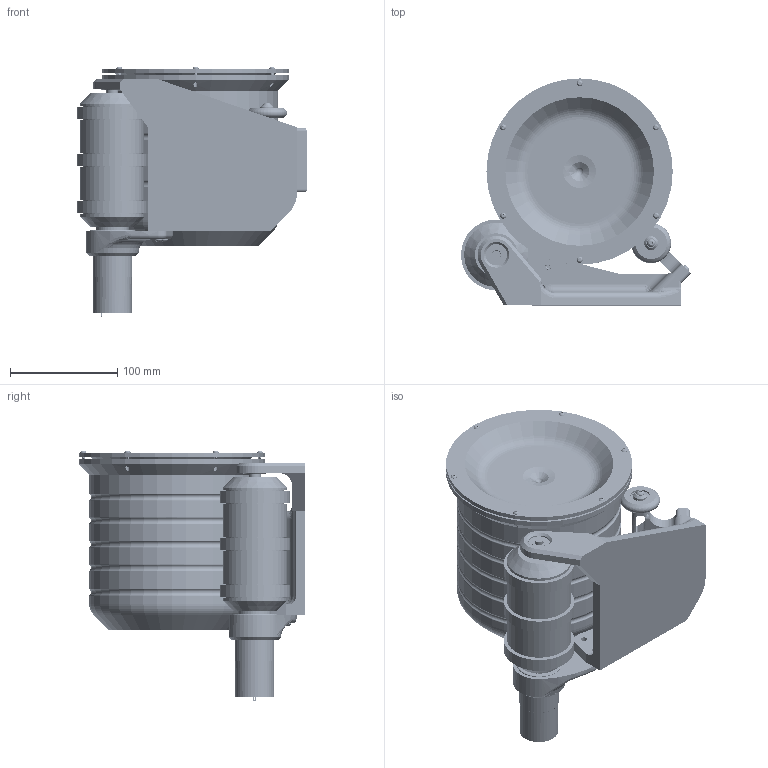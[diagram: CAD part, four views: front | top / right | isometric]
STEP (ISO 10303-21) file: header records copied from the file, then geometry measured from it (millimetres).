
FILE_DESCRIPTION(/* description */ (''),/* implementation_level */ '2;1');
FILE_NAME(/* name */ 'SimpleTumblePolisher_v1.step',/* time_stamp */ '2026-03-08T20:52:50-06:00',/* author */ (''),/* organization */ (''),/* preprocessor_version */ 'ST-DEVELOPER v20.1',/* originating_system */ 'Autodesk Translation Framework v14.24.0.0',/* authorisation */ '');
FILE_SCHEMA (('AUTOMOTIVE_DESIGN { 1 0 10303 214 3 1 1 }'));
Products named in the file (15): SimpleTumblePolisher_v1; Base; FreeRoller; 92095A125_m4x15_Button Head Hex Drive Screw (2) v1(Mirror); Bearing_Roller_608-2RS_5972K222; 5972K282_30x42x7_Ball Bearing; Greartisan DC 12V; 92125A126_18-8 Stainless Steel Hex-Drive Flat Head Screw; 94180A351_HeatSet_m4x4p7; 92095A190_M4x10_BCHS_Button Head Hex Drive Screw (1); 92095A125_m4x15_Button Head Hex Drive Screw (2); FreeRollerBody; SimpleTumblePolisher_v1_CoffeeCanSurrogate; 97164A113_HeatSet_m3x5; 92095A182_m3x10_bhcs
Assembly tree (39 placements, depth 4):
  SimpleTumblePolisher_v1
    Base
      FreeRoller  x2
        Bearing_Roller_608-2RS_5972K222
        94180A351_HeatSet_m4x4p7
        92095A125_m4x15_Button Head Hex Drive Screw (2)
      92095A125_m4x15_Button Head Hex Drive Screw (2) v1(Mirror)
      Bearing_Roller_608-2RS_5972K222
      5972K282_30x42x7_Ball Bearing
      Greartisan DC 12V
      92125A126_18-8 Stainless Steel Hex-Drive Flat Head Screw  x6
      94180A351_HeatSet_m4x4p7  x4
      92095A190_M4x10_BCHS_Button Head Hex Drive Screw (1)  x2
      92095A125_m4x15_Button Head Hex Drive Screw (2)  x2
      FreeRollerBody
    SimpleTumblePolisher_v1_CoffeeCanSurrogate
      97164A113_HeatSet_m3x5  x6
      92095A182_m3x10_bhcs  x6
Bounding box: 214.57 x 212 x 233.85 mm (x, y, z)
Volume: 1349105.4 mm3; surface area: 421956.1 mm2
Topology: 100 solids, 104 shells, 4629 faces, 11951 edges, 7564 vertices
Faces by surface type: cylinder 1929, bspline 1364, plane 916, cone 298, sphere 63, torus 59
Full cylindrical faces by diameter (mm): 2.35 x210, 2.5 x56, 3 x216, 3.041 x54, 3.091 x124, 3.259 x6, 3.411 x12, 3.5 x6, 3.6 x6, 4 x166, 4.1 x6, 4.37 x6, 4.6 x4, 4.65 x4, 5.338 x8, 5.6 x8, 5.7 x6, 5.74 x8, 6 x7, 6.35 x8, 7.6 x7, 7.7 x2, 7.85 x1, 8 x3, 8.3 x1, 8.7 x1, 11 x1, 12 x1, 13 x3, 13.681 x12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
Entity records: 94419 total; most frequent: CARTESIAN_POINT 60202, ORIENTED_EDGE 7432, DIRECTION 6569, EDGE_CURVE 3716, AXIS2_PLACEMENT_3D 2601, VERTEX_POINT 2408, EDGE_LOOP 1650, FACE_OUTER_BOUND 1473
